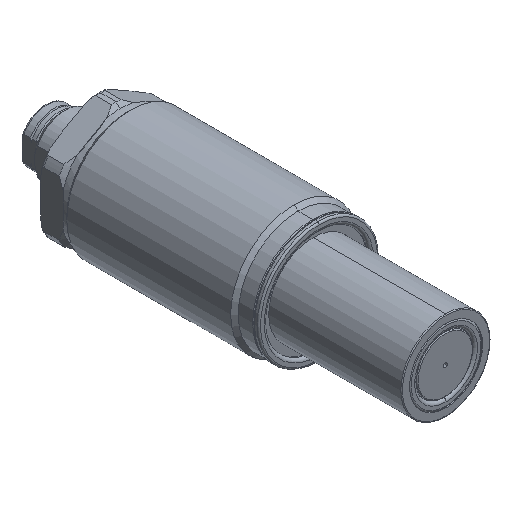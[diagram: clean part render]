
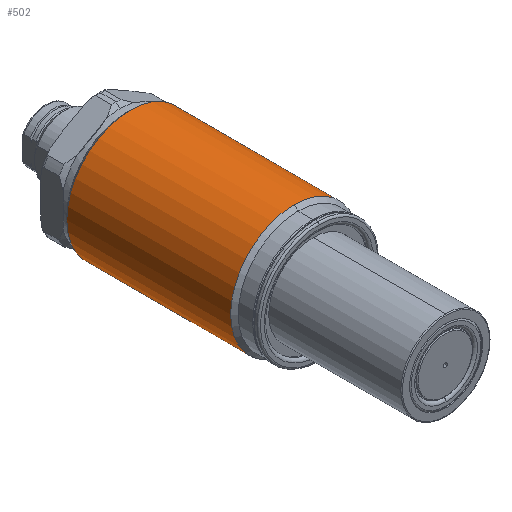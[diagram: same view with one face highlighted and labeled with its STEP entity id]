
A CAD part, isometric view. The second image highlights one B-rep face of the part: STEP entity #502.
In plain terms, the highlighted cylindrical face has radius 15 mm (diameter 30 mm), a full revolution.
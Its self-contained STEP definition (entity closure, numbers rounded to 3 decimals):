
#336=FACE_BOUND('',#899,.T.);
#337=FACE_BOUND('',#900,.T.);
#502=ADVANCED_FACE('',(#336,#337),#613,.T.);
#613=CYLINDRICAL_SURFACE('',#3071,15.);
#899=EDGE_LOOP('',(#1625,#1626));
#900=EDGE_LOOP('',(#1627,#1628,#1629,#1630,#1631,#1632));
#1048=LINE('',#4834,#1151);
#1049=LINE('',#4836,#1152);
#1151=VECTOR('',#3794,1.);
#1152=VECTOR('',#3795,1.);
#1625=ORIENTED_EDGE('',*,*,#2433,.T.);
#1626=ORIENTED_EDGE('',*,*,#2434,.T.);
#1627=ORIENTED_EDGE('',*,*,#2435,.T.);
#1628=ORIENTED_EDGE('',*,*,#2435,.F.);
#1629=ORIENTED_EDGE('',*,*,#2428,.F.);
#1630=ORIENTED_EDGE('',*,*,#2436,.T.);
#1631=ORIENTED_EDGE('',*,*,#2436,.F.);
#1632=ORIENTED_EDGE('',*,*,#2417,.F.);
#2102=VERTEX_POINT('',#4794);
#2103=VERTEX_POINT('',#4796);
#2108=VERTEX_POINT('',#4831);
#2109=VERTEX_POINT('',#4832);
#2110=VERTEX_POINT('',#4835);
#2111=VERTEX_POINT('',#4837);
#2417=EDGE_CURVE('',#2102,#2103,#2726,.T.);
#2428=EDGE_CURVE('',#2103,#2102,#2734,.T.);
#2433=EDGE_CURVE('',#2108,#2109,#2739,.T.);
#2434=EDGE_CURVE('',#2109,#2108,#2740,.T.);
#2435=EDGE_CURVE('',#2102,#2110,#1048,.T.);
#2436=EDGE_CURVE('',#2103,#2111,#1049,.T.);
#2726=CIRCLE('',#3042,15.);
#2734=CIRCLE('',#3056,15.);
#2739=CIRCLE('',#3069,15.);
#2740=CIRCLE('',#3070,15.);
#3042=AXIS2_PLACEMENT_3D('',#4795,#3733,#3734);
#3056=AXIS2_PLACEMENT_3D('',#4817,#3764,#3765);
#3069=AXIS2_PLACEMENT_3D('',#4830,#3790,#3791);
#3070=AXIS2_PLACEMENT_3D('',#4833,#3792,#3793);
#3071=AXIS2_PLACEMENT_3D('',#4838,#3796,#3797);
#3733=DIRECTION('',(0.,-1.,0.));
#3734=DIRECTION('',(0.,0.,-1.));
#3764=DIRECTION('',(0.,-1.,0.));
#3765=DIRECTION('',(0.,0.,-1.));
#3790=DIRECTION('',(0.,-1.,0.));
#3791=DIRECTION('',(0.,0.,-1.));
#3792=DIRECTION('',(0.,-1.,0.));
#3793=DIRECTION('',(0.,0.,-1.));
#3794=DIRECTION('',(0.,1.,0.));
#3795=DIRECTION('',(0.,1.,0.));
#3796=DIRECTION('',(0.,-1.,0.));
#3797=DIRECTION('',(0.,0.,-1.));
#4794=CARTESIAN_POINT('',(0.,34.6,-15.));
#4795=CARTESIAN_POINT('',(0.,34.6,0.));
#4796=CARTESIAN_POINT('',(0.,34.6,15.));
#4817=CARTESIAN_POINT('',(0.,34.6,0.));
#4830=CARTESIAN_POINT('',(0.,73.3,0.));
#4831=CARTESIAN_POINT('',(0.,73.3,-15.));
#4832=CARTESIAN_POINT('',(0.,73.3,15.));
#4833=CARTESIAN_POINT('',(0.,73.3,0.));
#4834=CARTESIAN_POINT('',(0.,0.,-15.));
#4835=CARTESIAN_POINT('',(0.,64.3,-15.));
#4836=CARTESIAN_POINT('',(0.,0.,15.));
#4837=CARTESIAN_POINT('',(0.,64.3,15.));
#4838=CARTESIAN_POINT('',(0.,0.,0.));
